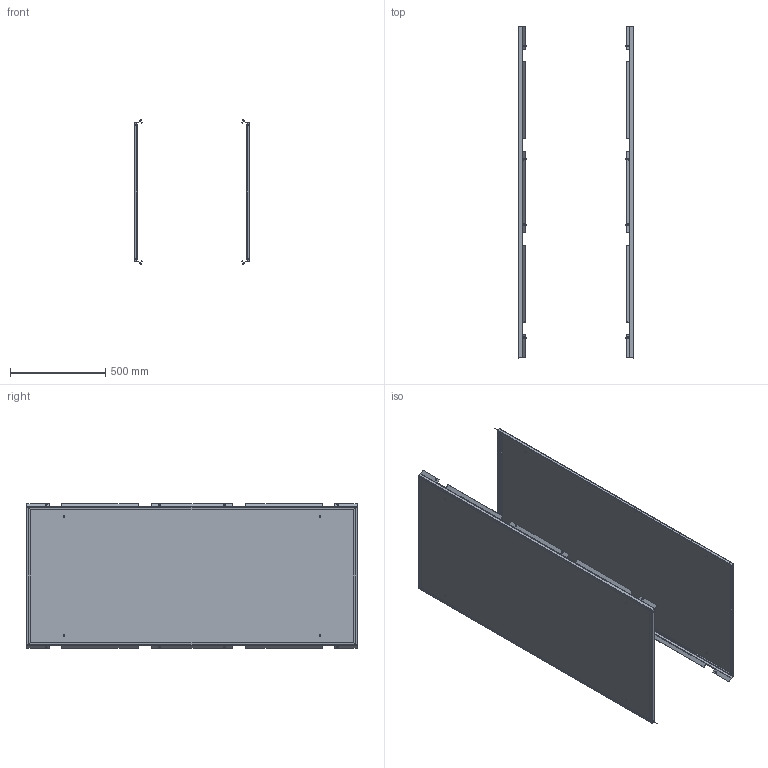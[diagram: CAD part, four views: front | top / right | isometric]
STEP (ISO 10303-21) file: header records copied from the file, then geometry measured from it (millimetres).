
FILE_DESCRIPTION (( 'STEP AP203' ), '1' );
FILE_NAME ('MA1.200.060818.20.00 AleSta-PS188 Áîêîâûå ïàíåëè AleSta 1800x800 (2 øò).STEP', '2025-02-19T14:43:17', ( '' ), ( '' ), 'SwSTEP 2.0', 'SolidWorks 2021', '' );
FILE_SCHEMA (( 'CONFIG_CONTROL_DESIGN' ));
Length unit declared in the file: millimetre
Products named in the file (6): Óïëîòíèòåëü ïàíåëè íèæíåé_ ‚=1800; Âèíò ñàìîíàðåçàþùèé ñ ïîòàéíîé ãîëîâêîé Ì5x16 DIN 7500 M TORX, êëàññ ïðî÷íîñòè 8.8, îöèíêîâàííàÿ ñòàëü_Œ5å16; MA1.200.060620.21.00 Ñòåíêà áîêîâàÿ 600x2000_1800å800; Øïèëüêà Ì6õ12_˜¯¨«ìª  Œ6å12; MA1.200.060818.20.00 AleSta-PS188  Áîêîâûå ïàíåëè AleSta 1800x800 (2 øò); MA1.200.060620.21.01 Ïîëîòíî ñòåíêè áîêîâîé 600õ2000_1800å800
Assembly tree (24 placements, depth 3):
  MA1.200.060818.20.00 AleSta-PS188  Áîêîâûå ïàíåëè AleSta 1800x800 (2 øò)
    MA1.200.060620.21.00 Ñòåíêà áîêîâàÿ 600x2000_1800å800  x2
      MA1.200.060620.21.01 Ïîëîòíî ñòåíêè áîêîâîé 600õ2000_1800å800
      Øïèëüêà Ì6õ12_˜¯¨«ìª  Œ6å12
      Óïëîòíèòåëü ïàíåëè íèæíåé_ ‚=1800
    Âèíò ñàìîíàðåçàþùèé ñ ïîòàéíîé ãîëîâêîé Ì5x16 DIN 7500 M TORX, êëàññ ïðî÷íîñòè 8.8, îöèíêîâàííàÿ ñòàëü_Œ5å16  x16
Bounding box: 606 x 1745 x 760.73 mm (x, y, z)
Volume: 3474586.1 mm3; surface area: 6030096.4 mm2
Topology: 28 solids, 28 shells, 1116 faces, 2788 edges, 1784 vertices
Faces by surface type: cylinder 636, plane 368, cone 80, bspline 16, torus 16
Entity records: 8629 total; most frequent: CARTESIAN_POINT 1714, DIRECTION 1281, ORIENTED_EDGE 1158, EDGE_CURVE 579, AXIS2_PLACEMENT_3D 475, VERTEX_POINT 360, VECTOR 331, LINE 331
